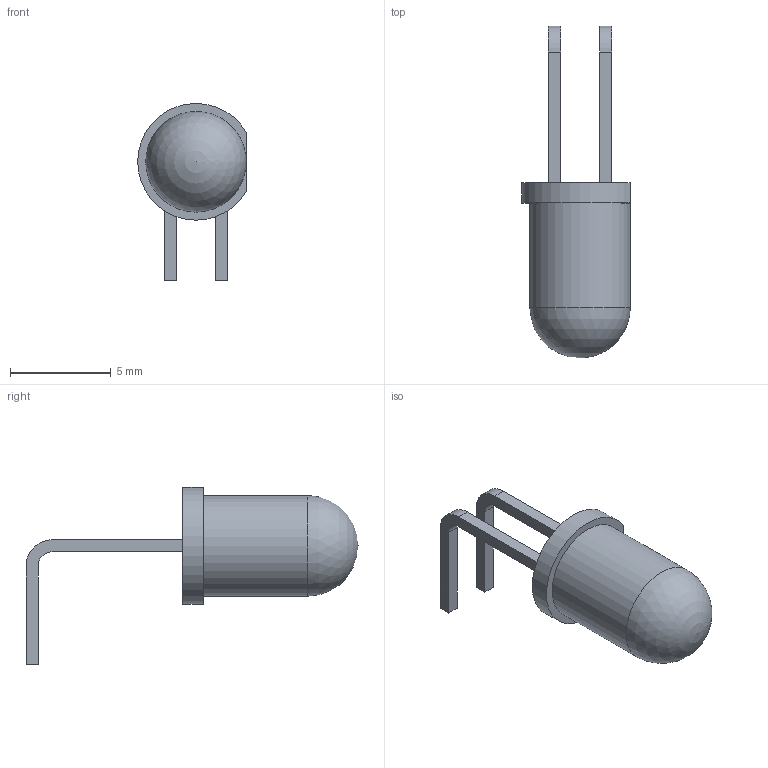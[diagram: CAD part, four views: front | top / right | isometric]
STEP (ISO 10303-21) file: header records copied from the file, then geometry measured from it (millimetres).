
FILE_DESCRIPTION(('FreeCAD Model'),'2;1');
FILE_NAME('D:/Altium Board/Parts/CAD Models/LED/5mm/LED 5mm Blue Right Angle 7.5mm Pin.step','2020-07-10T11:15:37',('Author'),(''), 'Open CASCADE STEP processor 7.3','FreeCAD','Unknown');
FILE_SCHEMA(('AUTOMOTIVE_DESIGN { 1 0 10303 214 1 1 1 1 }'));
Length unit declared in the file: millimetre
Products named in the file (1): LED_5mm_Blue_Right_Angle_7.5mm_Pin
Bounding box: 5.4 x 16.5 x 8.8 mm (x, y, z)
Volume: 164.8 mm3; surface area: 236.4 mm2
Topology: 1 solids, 1 shells, 37 faces, 86 edges, 53 vertices
Faces by surface type: plane 19, cylinder 16, torus 1, sphere 1
Full cylindrical faces by diameter (mm): 5 x1
Entity records: 2649 total; most frequent: CARTESIAN_POINT 632, DIRECTION 330, LINE 194, VECTOR 194, ORIENTED_EDGE 170, PCURVE 170, DEFINITIONAL_REPRESENTATION 170, EDGE_CURVE 85
